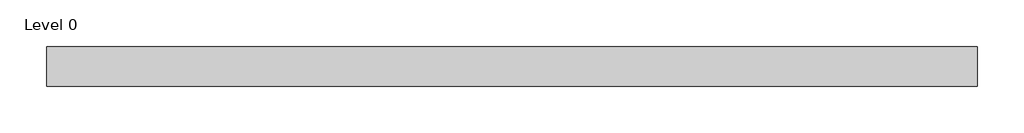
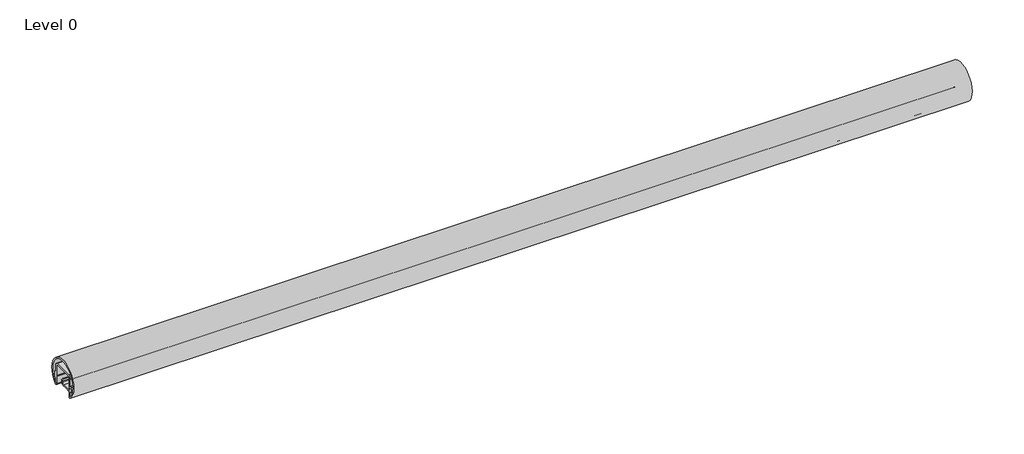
# One storey: 1 light fixture, 1 railing.
"""IFC4 building model written with IfcOpenShell, lengths in millimetres."""

from ifc_helpers import new_model, si_unit, point, frame, frame_2d, origin, place, context, project, spatial, polyline, circle_curve, trimmed, segment, composite_curve, outline, extrude, transform, mapped, element, save
from components import led_lighting_ultra_safe_ip69_symmetrical_39629687

model = new_model("IFC4")

# Units and contexts
model_context = context("Model", 3, world=origin())
ifc_project = project(units=[si_unit("LENGTHUNIT", "METRE", prefix="MILLI")], contexts=[model_context])

# Site, building, storey
site = spatial("IfcSite", under=ifc_project)
building = spatial("IfcBuilding", under=site)
storey = spatial("IfcBuildingStorey", under=building, Name="Level 0", Elevation=0.0)

# Light fixture
placement = place(None, origin())
led_lighting_ultra_safe_ip69_symmetrical_shape = led_lighting_ultra_safe_ip69_symmetrical_39629687(model_context)
element("IfcLightFixture", 1, ObjectType="LED Lighting ULTRA SAFE : IP69 - Symmetrical", at=placement, inside=storey, context=model_context, shape_type="MappedRepresentation", body=[
    mapped(led_lighting_ultra_safe_ip69_symmetrical_shape, transform((-14757.8489347, 1657.7012871, 894.4921875), x_axis=(-1.0, 0.0, 0.0), y_axis=(0.0, 1.0, 0.0), z_axis=(0.0, 0.0, -1.0))),
])

# Railing
element("IfcRailing", 2, ObjectType="LED Handrail ULTRA SAFE - ø42,4mm - Lilly - Symmetrical", at=placement, inside=storey, context=model_context, shape_type="SweptSolid", body=[
    extrude(outline(composite_curve([segment(trimmed(circle_curve(frame_2d((1563.0755063, 871.5)), 1.504995), [point((1564.1594321, 870.4559143))], [point((1561.5705113, 871.5))], False, "CARTESIAN"), True, "CONTINUOUS"), segment(polyline([(1561.5705113, 871.5), (1563.0805013, 871.5)]), True, "CONTINUOUS"), segment(trimmed(circle_curve(frame_2d((1549.5305013, 885.7999126)), 19.7), [point((1563.0805013, 871.5))], [point((1535.9804679, 871.5000317))], True, "CARTESIAN"), True, "CONTINUOUS"), segment(polyline([(1535.9804679, 871.5000317), (1537.4809119, 871.5000317)]), True, "CONTINUOUS"), segment(trimmed(circle_curve(frame_2d((1535.9807026, 871.5000317)), 1.5002093), [point((1537.4809119, 871.5000317))], [point((1534.9488359, 870.4110509))], False, "CARTESIAN"), True, "CONTINUOUS"), segment(trimmed(circle_curve(frame_2d((1549.5305334, 885.7998492)), 21.200024), [point((1534.9488359, 870.4110509))], [point((1564.1594321, 870.4559143))], False, "CARTESIAN"), True, "CONTINUOUS")], self_intersect=False)), frame((-16013.6966292, 0.0, 0.0), z_axis=(1.0, 0.0, 0.0), x_axis=(0.0, 1.0, 0.0)), (0.0, 0.0, 1.0), 1000.0),
    extrude(outline(composite_curve([segment(polyline([(1535.9805013, 877.8), (1533.4805013, 877.8), (1533.4805013, 884.2), (1535.9805013, 884.2), (1535.9805013, 893.5)]), True, "CONTINUOUS"), segment(trimmed(circle_curve(frame_2d((1538.4805013, 893.5)), 2.5), [point((1535.9805013, 893.5))], [point((1538.4805013, 896.0))], False, "CARTESIAN"), True, "CONTINUOUS"), segment(polyline([(1538.4805013, 896.0), (1560.5805013, 896.0)]), True, "CONTINUOUS"), segment(trimmed(circle_curve(frame_2d((1560.5805013, 893.5)), 2.5), [point((1560.5805013, 896.0))], [point((1563.0805013, 893.5))], False, "CARTESIAN"), True, "CONTINUOUS"), segment(polyline([(1563.0805013, 893.5), (1563.0805013, 884.2), (1565.5805013, 884.2), (1565.5805013, 877.8), (1563.0805013, 877.8), (1563.0805013, 871.5000317), (1561.5800907, 871.5000317), (1561.5800907, 880.5)]), True, "CONTINUOUS"), segment(trimmed(circle_curve(frame_2d((1561.5800907, 881.0)), 0.5), [point((1561.5800907, 880.5))], [point((1561.5800907, 881.5))], True, "CARTESIAN"), True, "CONTINUOUS"), segment(polyline([(1561.5800907, 881.5), (1561.5800907, 893.4986959)]), True, "CONTINUOUS"), segment(trimmed(circle_curve(frame_2d((1560.5812339, 893.4986959)), 0.9988569), [point((1561.5800907, 893.4986959))], [point((1560.5812339, 894.4975528))], True, "CARTESIAN"), True, "CONTINUOUS"), segment(polyline([(1560.5812339, 894.4975528), (1538.4855165, 894.4975528)]), True, "CONTINUOUS"), segment(trimmed(circle_curve(frame_2d((1538.4855165, 893.5025277)), 0.9950251), [point((1538.4855165, 894.4975528))], [point((1537.4904914, 893.5025277))], True, "CARTESIAN"), True, "CONTINUOUS"), segment(polyline([(1537.4904914, 893.5025277), (1537.4904914, 881.5019521)]), True, "CONTINUOUS"), segment(trimmed(circle_curve(frame_2d((1537.4904914, 881.001278)), 0.5006741), [point((1537.4904914, 881.5019521))], [point((1537.4904914, 880.5006039))], True, "CARTESIAN"), True, "CONTINUOUS"), segment(polyline([(1537.4904914, 880.5006039), (1537.4904914, 871.5), (1535.9805013, 871.5), (1535.9805013, 877.8)]), True, "CONTINUOUS")], self_intersect=False)), frame((-16013.6966292, 0.0, 0.0), z_axis=(1.0, 0.0, 0.0), x_axis=(0.0, 1.0, 0.0)), (0.0, 0.0, 1.0), 1000.0),
])

save(model, "model.ifc")
